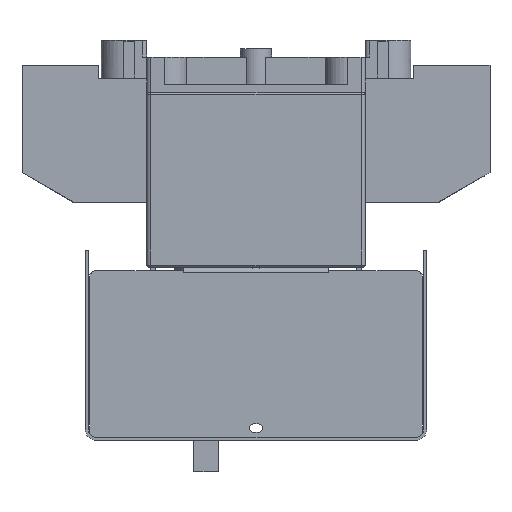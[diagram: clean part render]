
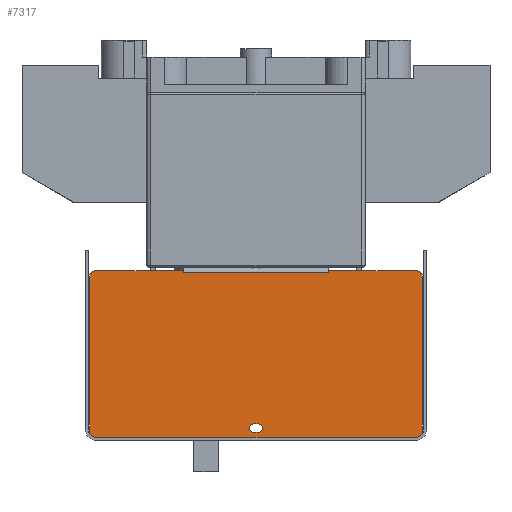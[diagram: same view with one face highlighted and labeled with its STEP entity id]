
A CAD part, left-side view. The second image highlights one B-rep face of the part: STEP entity #7317.
In plain terms, the highlighted planar face has unit normal (-1, 0, 0).
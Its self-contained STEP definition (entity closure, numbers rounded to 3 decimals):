
#626=FACE_BOUND('',#11031,.T.);
#627=FACE_BOUND('',#11032,.T.);
#2221=LINE('',#40038,#5133);
#2228=LINE('',#40056,#5140);
#2234=LINE('',#40073,#5146);
#2238=LINE('',#40086,#5150);
#2243=LINE('',#40103,#5155);
#2244=LINE('',#40108,#5156);
#2249=LINE('',#40121,#5161);
#2250=LINE('',#40123,#5162);
#2251=LINE('',#40125,#5163);
#2252=LINE('',#40127,#5164);
#2253=LINE('',#40129,#5165);
#2254=LINE('',#40131,#5166);
#5133=VECTOR('',#32471,1.);
#5140=VECTOR('',#32484,1.);
#5146=VECTOR('',#32498,1.);
#5150=VECTOR('',#32510,1.);
#5155=VECTOR('',#32529,1.);
#5156=VECTOR('',#32538,1.);
#5161=VECTOR('',#32551,1.);
#5162=VECTOR('',#32554,1.);
#5163=VECTOR('',#32555,1.);
#5164=VECTOR('',#32556,1.);
#5165=VECTOR('',#32557,1.);
#5166=VECTOR('',#32558,1.);
#7317=ADVANCED_FACE('',(#626,#627),#8461,.T.);
#8461=PLANE('',#27732);
#11031=EDGE_LOOP('',(#15491,#15492,#15493,#15494,#15495,#15496,#15497,#15498,
#15499,#15500,#15501,#15502,#15503,#15504));
#11032=EDGE_LOOP('',(#15505,#15506,#15507,#15508));
#15491=ORIENTED_EDGE('',*,*,#23827,.F.);
#15492=ORIENTED_EDGE('',*,*,#23828,.T.);
#15493=ORIENTED_EDGE('',*,*,#23829,.T.);
#15494=ORIENTED_EDGE('',*,*,#23830,.T.);
#15495=ORIENTED_EDGE('',*,*,#23831,.F.);
#15496=ORIENTED_EDGE('',*,*,#23819,.T.);
#15497=ORIENTED_EDGE('',*,*,#23824,.T.);
#15498=ORIENTED_EDGE('',*,*,#23807,.T.);
#15499=ORIENTED_EDGE('',*,*,#23810,.T.);
#15500=ORIENTED_EDGE('',*,*,#23785,.T.);
#15501=ORIENTED_EDGE('',*,*,#23813,.T.);
#15502=ORIENTED_EDGE('',*,*,#23816,.T.);
#15503=ORIENTED_EDGE('',*,*,#23818,.T.);
#15504=ORIENTED_EDGE('',*,*,#23793,.T.);
#15505=ORIENTED_EDGE('',*,*,#23797,.T.);
#15506=ORIENTED_EDGE('',*,*,#23801,.T.);
#15507=ORIENTED_EDGE('',*,*,#23804,.T.);
#15508=ORIENTED_EDGE('',*,*,#23826,.T.);
#20326=VERTEX_POINT('',#38867);
#20371=VERTEX_POINT('',#38964);
#20655=VERTEX_POINT('',#40055);
#20656=VERTEX_POINT('',#40057);
#20659=VERTEX_POINT('',#40064);
#20660=VERTEX_POINT('',#40066);
#20662=VERTEX_POINT('',#40072);
#20664=VERTEX_POINT('',#40078);
#20667=VERTEX_POINT('',#40085);
#20668=VERTEX_POINT('',#40087);
#20670=VERTEX_POINT('',#40096);
#20672=VERTEX_POINT('',#40102);
#20673=VERTEX_POINT('',#40109);
#20674=VERTEX_POINT('',#40110);
#20677=VERTEX_POINT('',#40124);
#20678=VERTEX_POINT('',#40126);
#20679=VERTEX_POINT('',#40128);
#20680=VERTEX_POINT('',#40130);
#23785=EDGE_CURVE('',#20326,#20371,#2221,.T.);
#23793=EDGE_CURVE('',#20656,#20655,#2228,.T.);
#23797=EDGE_CURVE('',#20660,#20659,#26171,.T.);
#23801=EDGE_CURVE('',#20659,#20662,#2234,.T.);
#23804=EDGE_CURVE('',#20662,#20664,#26173,.T.);
#23807=EDGE_CURVE('',#20668,#20667,#2238,.T.);
#23810=EDGE_CURVE('',#20667,#20326,#26175,.T.);
#23813=EDGE_CURVE('',#20371,#20670,#26177,.T.);
#23816=EDGE_CURVE('',#20670,#20672,#2243,.T.);
#23818=EDGE_CURVE('',#20672,#20656,#26179,.T.);
#23819=EDGE_CURVE('',#20673,#20674,#2244,.T.);
#23824=EDGE_CURVE('',#20674,#20668,#26181,.T.);
#23826=EDGE_CURVE('',#20664,#20660,#2249,.T.);
#23827=EDGE_CURVE('',#20677,#20655,#2250,.T.);
#23828=EDGE_CURVE('',#20677,#20678,#2251,.T.);
#23829=EDGE_CURVE('',#20678,#20679,#2252,.T.);
#23830=EDGE_CURVE('',#20679,#20680,#2253,.T.);
#23831=EDGE_CURVE('',#20673,#20680,#2254,.T.);
#26171=CIRCLE('',#27710,2.1);
#26173=CIRCLE('',#27714,2.1);
#26175=CIRCLE('',#27718,3.);
#26177=CIRCLE('',#27721,3.);
#26179=CIRCLE('',#27725,3.);
#26181=CIRCLE('',#27729,3.);
#27710=AXIS2_PLACEMENT_3D('',#40065,#32491,#32492);
#27714=AXIS2_PLACEMENT_3D('',#40079,#32504,#32505);
#27718=AXIS2_PLACEMENT_3D('',#40091,#32516,#32517);
#27721=AXIS2_PLACEMENT_3D('',#40097,#32523,#32524);
#27725=AXIS2_PLACEMENT_3D('',#40106,#32534,#32535);
#27729=AXIS2_PLACEMENT_3D('',#40118,#32546,#32547);
#27732=AXIS2_PLACEMENT_3D('',#40132,#32559,#32560);
#32471=DIRECTION('',(0.,-1.,0.));
#32484=DIRECTION('',(0.,1.,0.));
#32491=DIRECTION('',(1.,0.,0.));
#32492=DIRECTION('',(0.,1.,0.));
#32498=DIRECTION('',(0.,-1.,0.));
#32504=DIRECTION('',(1.,0.,0.));
#32505=DIRECTION('',(0.,1.,0.));
#32510=DIRECTION('',(0.,0.,-1.));
#32516=DIRECTION('',(-1.,0.,0.));
#32517=DIRECTION('',(0.,1.,0.));
#32523=DIRECTION('',(-1.,0.,0.));
#32524=DIRECTION('',(0.,1.,0.));
#32529=DIRECTION('',(0.,0.,1.));
#32534=DIRECTION('',(-1.,0.,0.));
#32535=DIRECTION('',(0.,1.,0.));
#32538=DIRECTION('',(0.,1.,0.));
#32546=DIRECTION('',(-1.,0.,0.));
#32547=DIRECTION('',(0.,1.,0.));
#32551=DIRECTION('',(0.,1.,0.));
#32554=DIRECTION('',(0.,0.,1.));
#32555=DIRECTION('',(0.,1.,0.));
#32556=DIRECTION('',(0.,1.,0.));
#32557=DIRECTION('',(0.,1.,0.));
#32558=DIRECTION('',(0.,0.,-1.));
#32559=DIRECTION('',(-1.,0.,0.));
#32560=DIRECTION('',(0.,-1.,0.));
#38867=CARTESIAN_POINT('',(-189.3,77.,-165.8));
#38964=CARTESIAN_POINT('',(-189.3,-77.,-165.8));
#40038=CARTESIAN_POINT('',(-189.3,77.,-165.8));
#40055=CARTESIAN_POINT('',(-189.3,-35.002,-85.8));
#40056=CARTESIAN_POINT('',(-189.3,-77.,-85.8));
#40057=CARTESIAN_POINT('',(-189.3,-77.,-85.8));
#40064=CARTESIAN_POINT('',(-189.3,1.,-159.3));
#40065=CARTESIAN_POINT('',(-189.3,1.,-161.4));
#40066=CARTESIAN_POINT('',(-189.3,1.,-163.5));
#40072=CARTESIAN_POINT('',(-189.3,-1.,-159.3));
#40073=CARTESIAN_POINT('',(-189.3,1.,-159.3));
#40078=CARTESIAN_POINT('',(-189.3,-1.,-163.5));
#40079=CARTESIAN_POINT('',(-189.3,-1.,-161.4));
#40085=CARTESIAN_POINT('',(-189.3,80.,-162.8));
#40086=CARTESIAN_POINT('',(-189.3,80.,-88.8));
#40087=CARTESIAN_POINT('',(-189.3,80.,-88.8));
#40091=CARTESIAN_POINT('',(-189.3,77.,-162.8));
#40096=CARTESIAN_POINT('',(-189.3,-80.,-162.8));
#40097=CARTESIAN_POINT('',(-189.3,-77.,-162.8));
#40102=CARTESIAN_POINT('',(-189.3,-80.,-88.8));
#40103=CARTESIAN_POINT('',(-189.3,-80.,-162.8));
#40106=CARTESIAN_POINT('',(-189.3,-77.,-88.8));
#40108=CARTESIAN_POINT('',(-189.3,-77.,-85.8));
#40109=CARTESIAN_POINT('',(-189.3,35.002,-85.8));
#40110=CARTESIAN_POINT('',(-189.3,77.,-85.8));
#40118=CARTESIAN_POINT('',(-189.3,77.,-88.8));
#40121=CARTESIAN_POINT('',(-189.3,-1.,-163.5));
#40123=CARTESIAN_POINT('',(-189.3,-35.002,-162.8));
#40124=CARTESIAN_POINT('',(-189.3,-35.002,-86.8));
#40125=CARTESIAN_POINT('',(-189.3,77.,-86.8));
#40126=CARTESIAN_POINT('',(-189.3,-35.,-86.8));
#40127=CARTESIAN_POINT('',(-189.3,50.5,-86.8));
#40128=CARTESIAN_POINT('',(-189.3,35.,-86.8));
#40129=CARTESIAN_POINT('',(-189.3,77.,-86.8));
#40130=CARTESIAN_POINT('',(-189.3,35.002,-86.8));
#40131=CARTESIAN_POINT('',(-189.3,35.002,-162.8));
#40132=CARTESIAN_POINT('',(-189.3,77.,-162.8));
